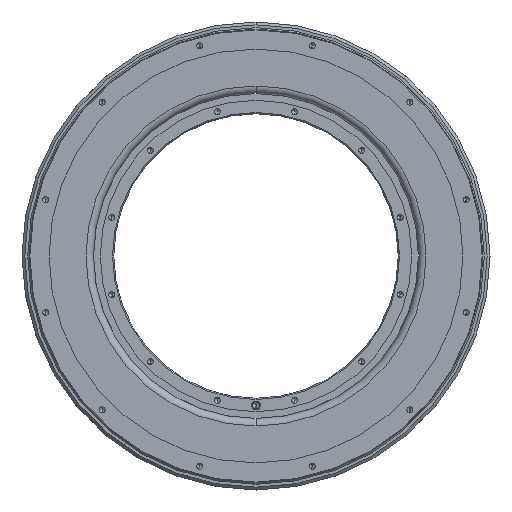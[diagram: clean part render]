
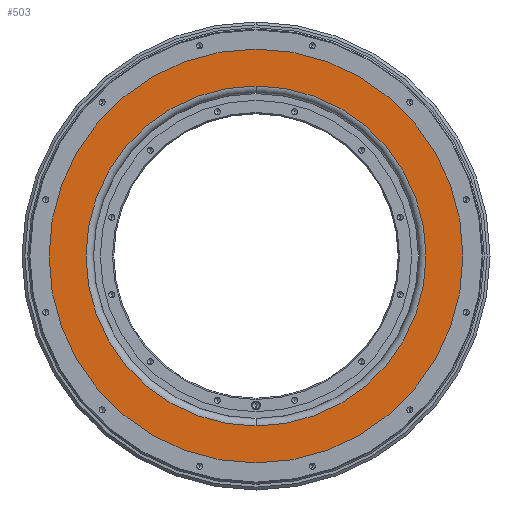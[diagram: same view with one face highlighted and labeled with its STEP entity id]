
A CAD part, front view. The second image highlights one B-rep face of the part: STEP entity #503.
In plain terms, the highlighted planar face has unit normal (0, -1, 0).
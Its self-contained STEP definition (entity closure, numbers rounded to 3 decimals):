
#49 = ORIENTED_EDGE ( 'NONE', *, *, #7440, .T. ) ;
#308 = AXIS2_PLACEMENT_3D ( 'NONE', #8096, #8880, #4661 ) ;
#503 = ADVANCED_FACE ( 'NONE', ( #6752, #4431 ), #3167, .F. ) ;
#695 = EDGE_CURVE ( 'NONE', #1862, #4409, #7610, .T. ) ;
#1091 = DIRECTION ( 'NONE',  ( 0., 0., -1. ) ) ;
#1202 = EDGE_LOOP ( 'NONE', ( #6489, #4004 ) ) ;
#1544 = ORIENTED_EDGE ( 'NONE', *, *, #5276, .T. ) ;
#1862 = VERTEX_POINT ( 'NONE', #5588 ) ;
#1952 = VERTEX_POINT ( 'NONE', #8354 ) ;
#2240 = DIRECTION ( 'NONE',  ( 0., 1., 0. ) ) ;
#2453 = CIRCLE ( 'NONE', #3610, 145.5 ) ;
#3167 = PLANE ( 'NONE',  #308 ) ;
#3593 = CARTESIAN_POINT ( 'NONE',  ( 0., 3., 0. ) ) ;
#3610 = AXIS2_PLACEMENT_3D ( 'NONE', #6976, #7701, #6946 ) ;
#4004 = ORIENTED_EDGE ( 'NONE', *, *, #695, .T. ) ;
#4409 = VERTEX_POINT ( 'NONE', #7724 ) ;
#4431 = FACE_OUTER_BOUND ( 'NONE', #9003, .T. ) ;
#4503 = CARTESIAN_POINT ( 'NONE',  ( 0., 3., -145.5 ) ) ;
#4550 = AXIS2_PLACEMENT_3D ( 'NONE', #4583, #4553, #1091 ) ;
#4553 = DIRECTION ( 'NONE',  ( 0., -1., 0. ) ) ;
#4583 = CARTESIAN_POINT ( 'NONE',  ( 0., 3., 0. ) ) ;
#4644 = EDGE_CURVE ( 'NONE', #4409, #1862, #5018, .T. ) ;
#4661 = DIRECTION ( 'NONE',  ( 0., 0., 1. ) ) ;
#4944 = AXIS2_PLACEMENT_3D ( 'NONE', #7855, #2240, #7182 ) ;
#5018 = CIRCLE ( 'NONE', #4944, 119.5 ) ;
#5276 = EDGE_CURVE ( 'NONE', #1952, #8963, #2453, .T. ) ;
#5588 = CARTESIAN_POINT ( 'NONE',  ( 0., 3., -119.5 ) ) ;
#6489 = ORIENTED_EDGE ( 'NONE', *, *, #4644, .T. ) ;
#6752 = FACE_BOUND ( 'NONE', #1202, .T. ) ;
#6798 = AXIS2_PLACEMENT_3D ( 'NONE', #3593, #7050, #7684 ) ;
#6946 = DIRECTION ( 'NONE',  ( 0., 0., -1. ) ) ;
#6976 = CARTESIAN_POINT ( 'NONE',  ( 0., 3., 0. ) ) ;
#7050 = DIRECTION ( 'NONE',  ( 0., 1., 0. ) ) ;
#7182 = DIRECTION ( 'NONE',  ( 0., 0., 1. ) ) ;
#7205 = CIRCLE ( 'NONE', #4550, 145.5 ) ;
#7440 = EDGE_CURVE ( 'NONE', #8963, #1952, #7205, .T. ) ;
#7610 = CIRCLE ( 'NONE', #6798, 119.5 ) ;
#7684 = DIRECTION ( 'NONE',  ( 0., 0., 1. ) ) ;
#7701 = DIRECTION ( 'NONE',  ( 0., -1., 0. ) ) ;
#7724 = CARTESIAN_POINT ( 'NONE',  ( 0., 3., 119.5 ) ) ;
#7855 = CARTESIAN_POINT ( 'NONE',  ( 0., 3., 0. ) ) ;
#8096 = CARTESIAN_POINT ( 'NONE',  ( -145.5, 3., 0. ) ) ;
#8354 = CARTESIAN_POINT ( 'NONE',  ( 0., 3., 145.5 ) ) ;
#8880 = DIRECTION ( 'NONE',  ( 0., 1., 0. ) ) ;
#8963 = VERTEX_POINT ( 'NONE', #4503 ) ;
#9003 = EDGE_LOOP ( 'NONE', ( #49, #1544 ) ) ;
